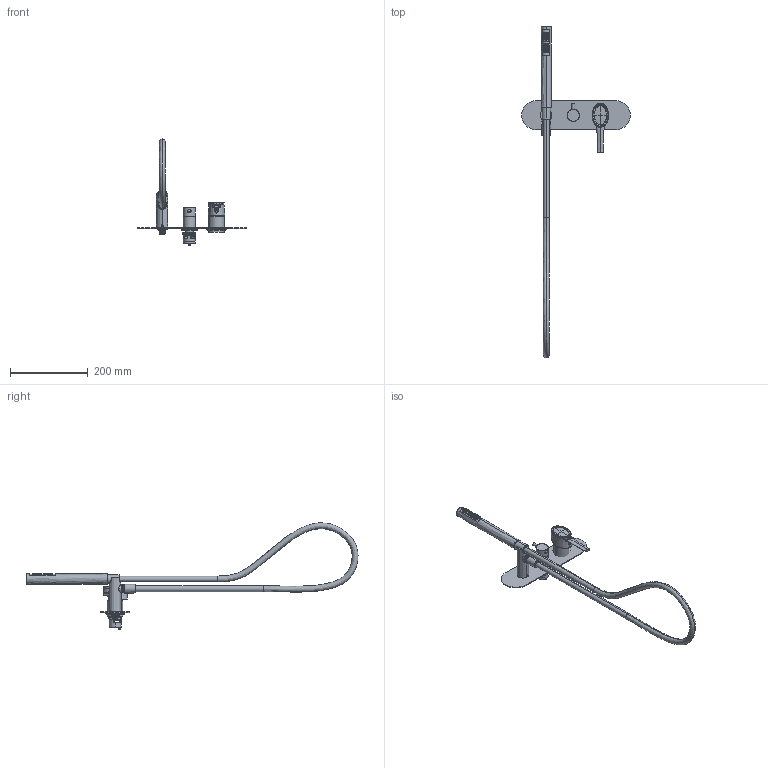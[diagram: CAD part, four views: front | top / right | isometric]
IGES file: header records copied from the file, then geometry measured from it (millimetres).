
Start section:  PTC IGES file: 58519v2_sw0001.igs
Global section: file name: 58519v2_sw0001.igs; native system: Creo Parametric by PTC Inc.; preprocessor: 2022014; author: volponeff; organization: Unknown; date: 20230605.082151; units: millimetre
Bounding box: 280 x 856.74 x 273.8 mm (x, y, z)
Surface area: 182452.5 mm2 (no closed solid volume)
Topology: 0 solids, 0 shells, 382 faces, 1745 edges, 1741 vertices
Faces by surface type: revolution 246, bspline 136
